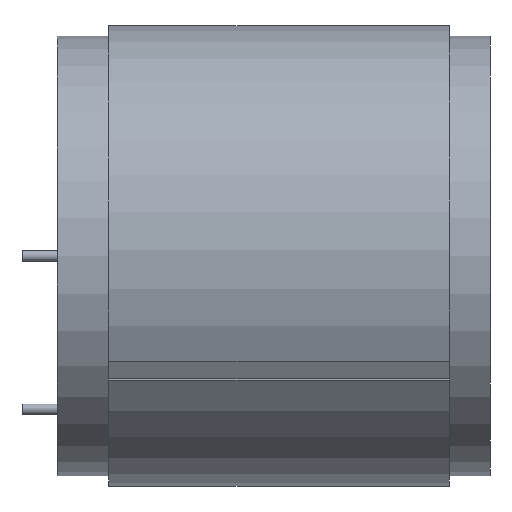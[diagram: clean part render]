
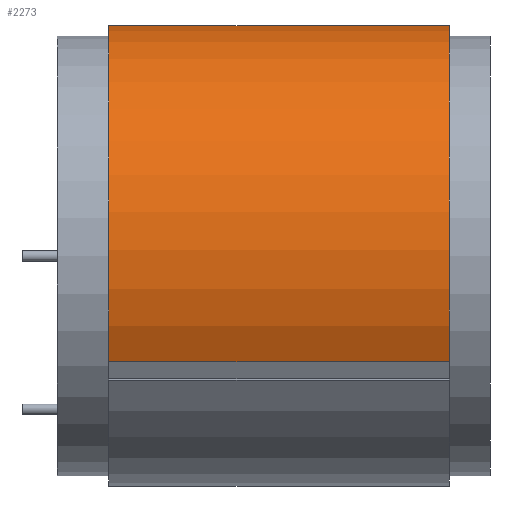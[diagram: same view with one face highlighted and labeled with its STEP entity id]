
A CAD part, left-side view. The second image highlights one B-rep face of the part: STEP entity #2273.
In plain terms, the highlighted cylindrical face has radius 32.5 mm (diameter 65 mm), a partial arc.
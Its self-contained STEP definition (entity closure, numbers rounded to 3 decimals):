
#53 = DIRECTION ( 'NONE',  ( 0., -1., 0. ) ) ;
#240 = DIRECTION ( 'NONE',  ( 0., 1., 0. ) ) ;
#370 = EDGE_CURVE ( 'NONE', #861, #1701, #547, .T. ) ;
#493 = DIRECTION ( 'NONE',  ( 0., -1., 0. ) ) ;
#514 = EDGE_LOOP ( 'NONE', ( #3920, #3088, #1913, #3583 ) ) ;
#547 = LINE ( 'NONE', #2340, #1571 ) ;
#861 = VERTEX_POINT ( 'NONE', #2740 ) ;
#985 = VERTEX_POINT ( 'NONE', #3445 ) ;
#1050 = CIRCLE ( 'NONE', #3634, 32.5 ) ;
#1171 = CIRCLE ( 'NONE', #3773, 32.5 ) ;
#1236 = EDGE_CURVE ( 'NONE', #2852, #985, #3775, .T. ) ;
#1338 = CARTESIAN_POINT ( 'NONE',  ( 6.862, 50.108, 73.9 ) ) ;
#1565 = CYLINDRICAL_SURFACE ( 'NONE', #3140, 32.5 ) ;
#1571 = VECTOR ( 'NONE', #493, 1000. ) ;
#1701 = VERTEX_POINT ( 'NONE', #3415 ) ;
#1859 = CARTESIAN_POINT ( 'NONE',  ( 8.387, 50.108, 41.435 ) ) ;
#1913 = ORIENTED_EDGE ( 'NONE', *, *, #2345, .T. ) ;
#2273 = ADVANCED_FACE ( 'NONE', ( #3115 ), #1565, .T. ) ;
#2334 = DIRECTION ( 'NONE',  ( 0., 0., 1. ) ) ;
#2340 = CARTESIAN_POINT ( 'NONE',  ( -20.49, 50.108, 26.524 ) ) ;
#2345 = EDGE_CURVE ( 'NONE', #1701, #2852, #1171, .T. ) ;
#2508 = DIRECTION ( 'NONE',  ( 0., 1., 0. ) ) ;
#2639 = CARTESIAN_POINT ( 'NONE',  ( 8.387, 50.108, 41.435 ) ) ;
#2740 = CARTESIAN_POINT ( 'NONE',  ( -20.49, 50.108, 26.524 ) ) ;
#2761 = VECTOR ( 'NONE', #2508, 1000. ) ;
#2844 = CARTESIAN_POINT ( 'NONE',  ( 8.387, 2.108, 41.435 ) ) ;
#2852 = VERTEX_POINT ( 'NONE', #3441 ) ;
#3088 = ORIENTED_EDGE ( 'NONE', *, *, #370, .T. ) ;
#3115 = FACE_OUTER_BOUND ( 'NONE', #514, .T. ) ;
#3140 = AXIS2_PLACEMENT_3D ( 'NONE', #1859, #53, #3368 ) ;
#3243 = DIRECTION ( 'NONE',  ( 0., 0., 1. ) ) ;
#3368 = DIRECTION ( 'NONE',  ( 0., 0., -1. ) ) ;
#3415 = CARTESIAN_POINT ( 'NONE',  ( -20.49, 2.108, 26.524 ) ) ;
#3441 = CARTESIAN_POINT ( 'NONE',  ( 6.862, 2.108, 73.9 ) ) ;
#3445 = CARTESIAN_POINT ( 'NONE',  ( 6.862, 50.108, 73.9 ) ) ;
#3493 = EDGE_CURVE ( 'NONE', #861, #985, #1050, .T. ) ;
#3583 = ORIENTED_EDGE ( 'NONE', *, *, #1236, .T. ) ;
#3634 = AXIS2_PLACEMENT_3D ( 'NONE', #2639, #240, #3243 ) ;
#3773 = AXIS2_PLACEMENT_3D ( 'NONE', #2844, #3839, #2334 ) ;
#3775 = LINE ( 'NONE', #1338, #2761 ) ;
#3839 = DIRECTION ( 'NONE',  ( 0., 1., 0. ) ) ;
#3920 = ORIENTED_EDGE ( 'NONE', *, *, #3493, .F. ) ;
